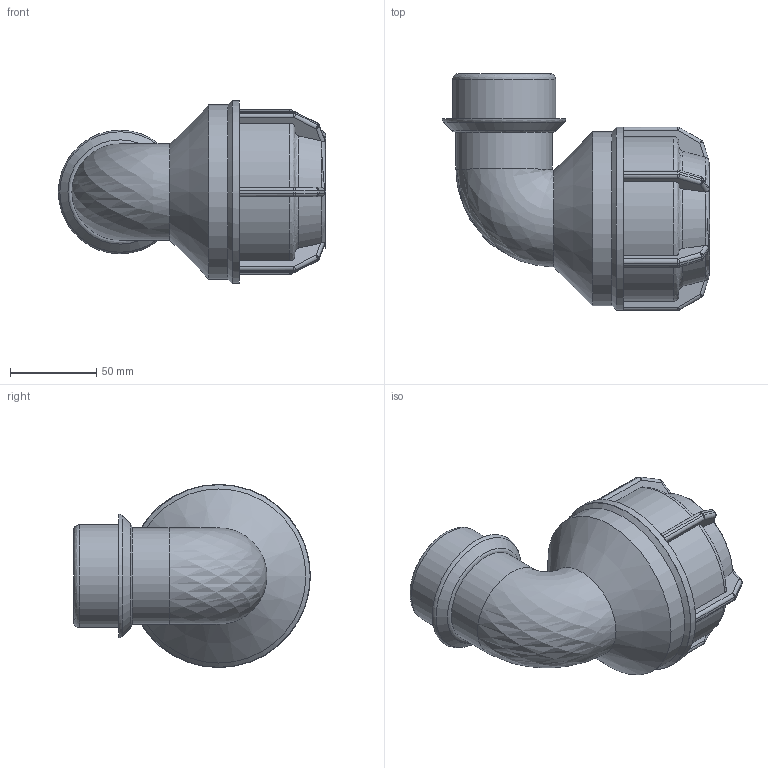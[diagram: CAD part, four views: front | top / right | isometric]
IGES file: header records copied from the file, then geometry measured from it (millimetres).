
Global section: file name: 148500063020.ipt; native system: Autodesk Inventor 2015; preprocessor: unknown; author: KIM; date: 20180409.131302; units: millimetre
Bounding box: 154.77 x 137 x 106 mm (x, y, z)
Volume: 385613.5 mm3; surface area: 90441.8 mm2
Topology: 1 solids, 1 shells, 212 faces, 505 edges, 294 vertices
Faces by surface type: plane 98, cylinder 58, sphere 24, revolution 23, cone 9
Full cylindrical faces by diameter (mm): 55.739 x1, 59.614 x1, 100.8 x1, 106 x1
